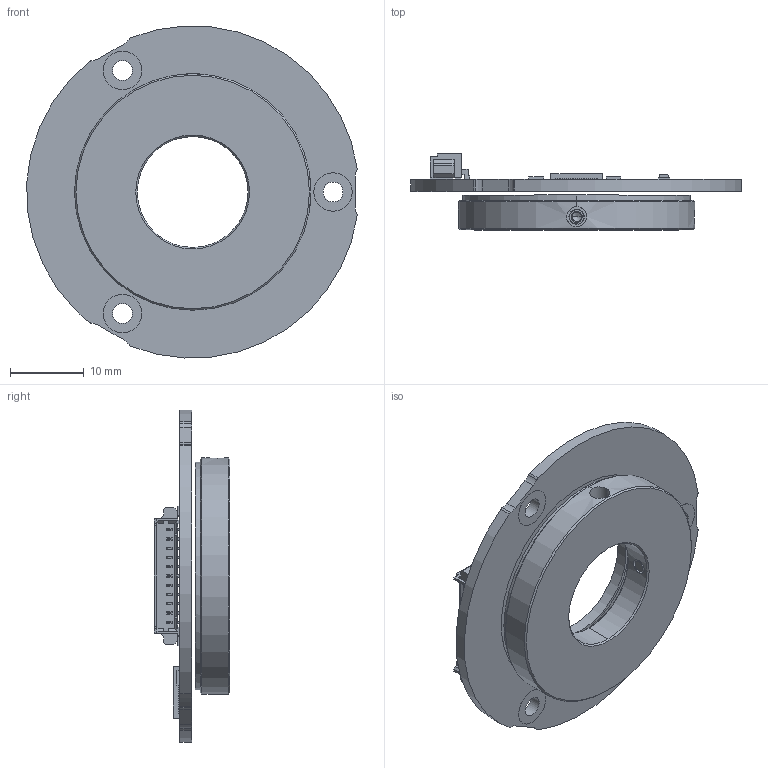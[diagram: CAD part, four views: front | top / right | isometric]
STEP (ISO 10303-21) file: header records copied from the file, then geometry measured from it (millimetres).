
FILE_DESCRIPTION (( 'STEP AP214' ), '1' );
FILE_NAME ('IND-ROT-045-C2115-AL_rev01.STEP', '2023-11-03T16:18:06', ( '' ), ( '' ), 'SwSTEP 2.0', 'SolidWorks 2021', '' );
FILE_SCHEMA (( 'AUTOMOTIVE_DESIGN' ));
Length unit declared in the file: millimetre
Products named in the file (1): IND-ROT-045-C2115-AL_rev01
Bounding box: 44.74 x 10.28 x 44.94 mm (x, y, z)
Volume: 5140.9 mm3; surface area: 6766.2 mm2
Topology: 20 solids, 20 shells, 1307 faces, 3474 edges, 2280 vertices
Faces by surface type: plane 667, bspline 430, cylinder 178, cone 32
Entity records: 60310 total; most frequent: CARTESIAN_POINT 14616, ORIENTED_EDGE 6940, DIRECTION 5368, EDGE_CURVE 3470, LINE 2816, VECTOR 2816, VERTEX_POINT 2280, EDGE_LOOP 1400
